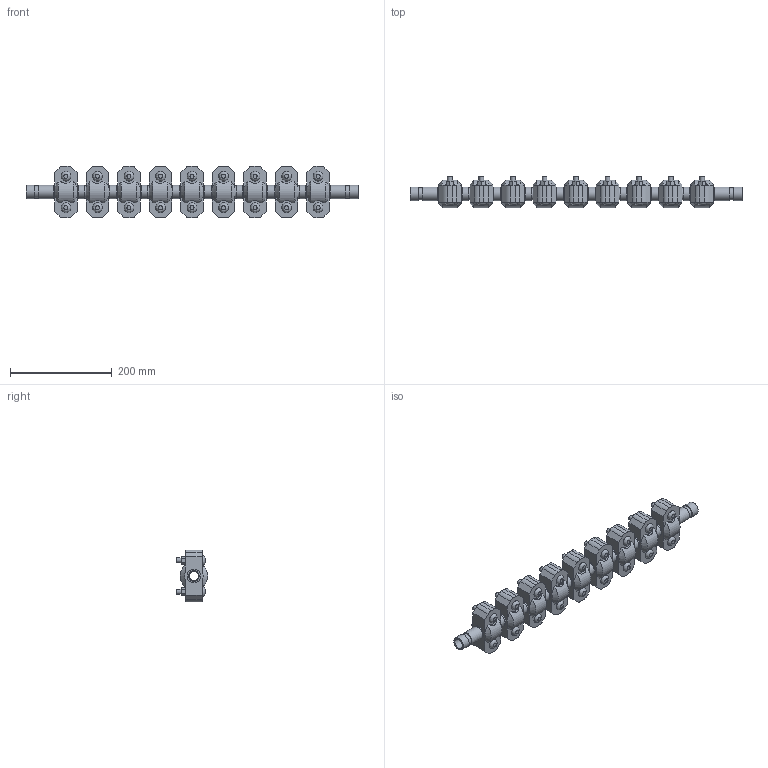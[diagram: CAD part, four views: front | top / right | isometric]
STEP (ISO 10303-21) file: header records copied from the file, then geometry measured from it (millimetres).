
FILE_DESCRIPTION(/* description */ ('VIC EXPANSION JOINT 9 COUPLINGS EXPANDED STYLE 155 (OGS)','CAx-IF Rec.Pracs.---Representation and Presentation of Product Manufacturing Information (PMI)---4.0---2014-10-13'),/* implementation_level */ '2;1');
FILE_NAME(/* name */ 'C:\Users\kkamble\AppData\Roaming\Autodesk\ApplicationPlugins\Victaulic.Temp\A90\Victaulic_IPS_Expansion Joint_Expanded_9 Couplings_Style 155 (OGS)_0.75 (20).stp',/* time_stamp */ '2021-06-27T00:10:42+02:00',/* author */ ('kkamble'),/* organization */ ('Victaulic'),/* preprocessor_version */ 'ST-DEVELOPER v17.2',/* originating_system */ 'Autodesk Inventor 2019',/* authorisation */ '');
FILE_SCHEMA (('AP242_MANAGED_MODEL_BASED_3D_ENGINEERING_MIM_LF { 1 0 10303 442 1 1 4 }'));
Length unit declared in the file: inch
Products named in the file (4): 155-0.75; Nipple-0.75; Nipple-0.75_1; 077-0.75
Assembly tree (19 placements, depth 2):
  155-0.75
    Nipple-0.75  x2
    Nipple-0.75_1  x8
    077-0.75  x9
Bounding box: 652.53 x 61.1 x 101.6 mm (x, y, z)
Volume: 1390836.8 mm3; surface area: 352306.5 mm2
Topology: 19 solids, 37 shells, 669 faces, 1605 edges, 1122 vertices
Faces by surface type: plane 384, cylinder 231, cone 36, bspline 18
Full cylindrical faces by diameter (mm): 9.525 x36, 11.43 x18, 17.78 x9, 20.93 x10, 23.825 x20, 26.67 x48
Entity records: 3065 total; most frequent: CARTESIAN_POINT 595, DIRECTION 501, ORIENTED_EDGE 410, EDGE_CURVE 205, AXIS2_PLACEMENT_3D 202, VERTEX_POINT 146, EDGE_LOOP 111, LINE 97
